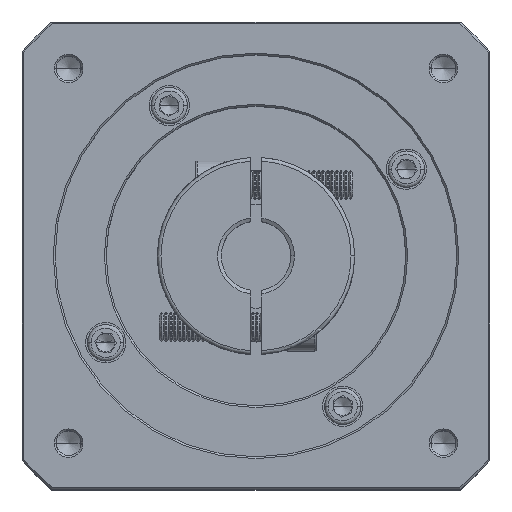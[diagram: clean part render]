
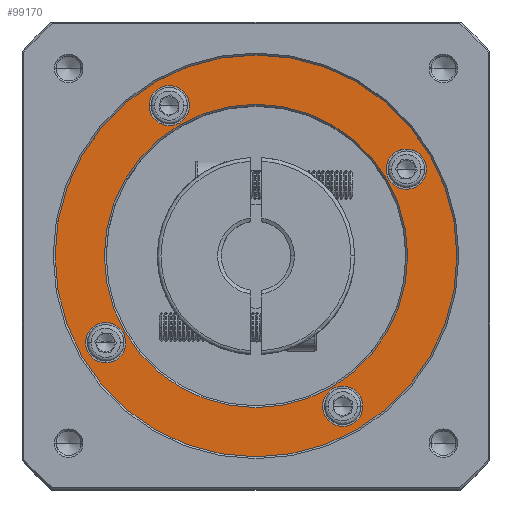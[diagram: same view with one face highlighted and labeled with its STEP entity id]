
A CAD part, top view. The second image highlights one B-rep face of the part: STEP entity #99170.
In plain terms, the highlighted planar face has unit normal (0, 0, 1).
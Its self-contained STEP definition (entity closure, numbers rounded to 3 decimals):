
#219 = ORIENTED_EDGE ( 'NONE', *, *, #86435, .T. ) ;
#425 = AXIS2_PLACEMENT_3D ( 'NONE', #82141, #25679, #91592 ) ;
#1742 = AXIS2_PLACEMENT_3D ( 'NONE', #78755, #22317, #88177 ) ;
#1783 = VERTEX_POINT ( 'NONE', #89459 ) ;
#3862 = CARTESIAN_POINT ( 'NONE',  ( 62.677, 143.748, 75.911 ) ) ;
#5498 = VERTEX_POINT ( 'NONE', #73115 ) ;
#5919 = DIRECTION ( 'NONE',  ( 0., 0., -1. ) ) ;
#6913 = CIRCLE ( 'NONE', #40359, 5.5 ) ;
#8899 = AXIS2_PLACEMENT_3D ( 'NONE', #51380, #117247, #60851 ) ;
#9395 = ORIENTED_EDGE ( 'NONE', *, *, #28859, .T. ) ;
#9466 = VERTEX_POINT ( 'NONE', #78642 ) ;
#11820 = DIRECTION ( 'NONE',  ( 0., 0., -1. ) ) ;
#11911 = CARTESIAN_POINT ( 'NONE',  ( 16.041, 119.998, 75.911 ) ) ;
#13334 = DIRECTION ( 'NONE',  ( 1., 0., 0. ) ) ;
#13977 = AXIS2_PLACEMENT_3D ( 'NONE', #62323, #5919, #71818 ) ;
#15432 = CARTESIAN_POINT ( 'NONE',  ( 21.541, 119.998, 75.911 ) ) ;
#16007 = AXIS2_PLACEMENT_3D ( 'NONE', #22597, #88459, #32062 ) ;
#19979 = FACE_BOUND ( 'NONE', #27703, .T. ) ;
#20912 = ORIENTED_EDGE ( 'NONE', *, *, #24653, .T. ) ;
#21345 = CARTESIAN_POINT ( 'NONE',  ( 62.677, 143.748, 75.911 ) ) ;
#21350 = CARTESIAN_POINT ( 'NONE',  ( 103.813, 167.498, 75.911 ) ) ;
#22317 = DIRECTION ( 'NONE',  ( 0., 0., -1. ) ) ;
#22597 = CARTESIAN_POINT ( 'NONE',  ( 62.677, 143.748, 75.911 ) ) ;
#24618 = CIRCLE ( 'NONE', #67406, 55. ) ;
#24653 = EDGE_CURVE ( 'NONE', #61809, #9466, #78404, .T. ) ;
#24857 = DIRECTION ( 'NONE',  ( 1., 0., 0. ) ) ;
#25073 = CIRCLE ( 'NONE', #70990, 5.5 ) ;
#25679 = DIRECTION ( 'NONE',  ( 0., 0., -1. ) ) ;
#26011 = ORIENTED_EDGE ( 'NONE', *, *, #81349, .T. ) ;
#27681 = DIRECTION ( 'NONE',  ( 0., 0., 1. ) ) ;
#27703 = EDGE_LOOP ( 'NONE', ( #34898, #116641 ) ) ;
#28602 = ORIENTED_EDGE ( 'NONE', *, *, #99868, .T. ) ;
#28859 = EDGE_CURVE ( 'NONE', #72485, #114377, #6913, .T. ) ;
#30646 = ORIENTED_EDGE ( 'NONE', *, *, #119630, .T. ) ;
#30765 = DIRECTION ( 'NONE',  ( 1., 0., 0. ) ) ;
#30774 = DIRECTION ( 'NONE',  ( 1., 0., 0. ) ) ;
#31224 = CARTESIAN_POINT ( 'NONE',  ( 86.427, 102.612, 75.911 ) ) ;
#31264 = CIRCLE ( 'NONE', #111550, 5.5 ) ;
#31381 = CIRCLE ( 'NONE', #119096, 5.5 ) ;
#32062 = DIRECTION ( 'NONE',  ( 0., -1., 0. ) ) ;
#34898 = ORIENTED_EDGE ( 'NONE', *, *, #90141, .T. ) ;
#36095 = CIRCLE ( 'NONE', #8899, 5.5 ) ;
#38768 = CIRCLE ( 'NONE', #16007, 41.5 ) ;
#39185 = EDGE_LOOP ( 'NONE', ( #20912, #26011 ) ) ;
#40359 = AXIS2_PLACEMENT_3D ( 'NONE', #15432, #81341, #24857 ) ;
#40668 = DIRECTION ( 'NONE',  ( 1., 0., 0. ) ) ;
#45039 = FACE_BOUND ( 'NONE', #57267, .T. ) ;
#48165 = ORIENTED_EDGE ( 'NONE', *, *, #57248, .T. ) ;
#49039 = EDGE_CURVE ( 'NONE', #111575, #5498, #102746, .T. ) ;
#50121 = CARTESIAN_POINT ( 'NONE',  ( 80.927, 102.612, 75.911 ) ) ;
#51380 = CARTESIAN_POINT ( 'NONE',  ( 86.427, 102.612, 75.911 ) ) ;
#52835 = DIRECTION ( 'NONE',  ( 0., 0., -1. ) ) ;
#55690 = EDGE_CURVE ( 'NONE', #81446, #1783, #31264, .T. ) ;
#57248 = EDGE_CURVE ( 'NONE', #91725, #74681, #94058, .T. ) ;
#57267 = EDGE_LOOP ( 'NONE', ( #30646, #67314 ) ) ;
#58196 = CIRCLE ( 'NONE', #425, 5.5 ) ;
#60447 = CARTESIAN_POINT ( 'NONE',  ( 44.427, 184.884, 75.911 ) ) ;
#60851 = DIRECTION ( 'NONE',  ( 1., 0., 0. ) ) ;
#61315 = AXIS2_PLACEMENT_3D ( 'NONE', #3862, #69785, #13334 ) ;
#61809 = VERTEX_POINT ( 'NONE', #70768 ) ;
#62323 = CARTESIAN_POINT ( 'NONE',  ( 103.813, 167.498, 75.911 ) ) ;
#67314 = ORIENTED_EDGE ( 'NONE', *, *, #77206, .T. ) ;
#67406 = AXIS2_PLACEMENT_3D ( 'NONE', #21345, #87170, #30765 ) ;
#68248 = CARTESIAN_POINT ( 'NONE',  ( 21.541, 119.998, 75.911 ) ) ;
#69785 = DIRECTION ( 'NONE',  ( 0., 0., 1. ) ) ;
#70768 = CARTESIAN_POINT ( 'NONE',  ( 117.677, 143.748, 75.911 ) ) ;
#70870 = AXIS2_PLACEMENT_3D ( 'NONE', #109156, #52835, #118688 ) ;
#70990 = AXIS2_PLACEMENT_3D ( 'NONE', #21350, #87173, #30774 ) ;
#71741 = ORIENTED_EDGE ( 'NONE', *, *, #103386, .T. ) ;
#71818 = DIRECTION ( 'NONE',  ( 1., 0., 0. ) ) ;
#72485 = VERTEX_POINT ( 'NONE', #11911 ) ;
#73115 = CARTESIAN_POINT ( 'NONE',  ( 62.677, 185.248, 75.911 ) ) ;
#74545 = AXIS2_PLACEMENT_3D ( 'NONE', #84158, #27681, #93622 ) ;
#74681 = VERTEX_POINT ( 'NONE', #96677 ) ;
#77206 = EDGE_CURVE ( 'NONE', #114754, #120820, #94034, .T. ) ;
#77725 = DIRECTION ( 'NONE',  ( 1., 0., 0. ) ) ;
#77825 = CARTESIAN_POINT ( 'NONE',  ( 27.041, 119.998, 75.911 ) ) ;
#78404 = CIRCLE ( 'NONE', #74545, 55. ) ;
#78642 = CARTESIAN_POINT ( 'NONE',  ( 7.677, 143.748, 75.911 ) ) ;
#78755 = CARTESIAN_POINT ( 'NONE',  ( 62.677, 143.748, 75.911 ) ) ;
#80695 = EDGE_LOOP ( 'NONE', ( #109456, #219 ) ) ;
#81341 = DIRECTION ( 'NONE',  ( 0., 0., -1. ) ) ;
#81349 = EDGE_CURVE ( 'NONE', #9466, #61809, #24618, .T. ) ;
#81446 = VERTEX_POINT ( 'NONE', #50121 ) ;
#81566 = CARTESIAN_POINT ( 'NONE',  ( 109.313, 167.498, 75.911 ) ) ;
#82141 = CARTESIAN_POINT ( 'NONE',  ( 38.927, 184.884, 75.911 ) ) ;
#84158 = CARTESIAN_POINT ( 'NONE',  ( 62.677, 143.748, 75.911 ) ) ;
#85573 = CARTESIAN_POINT ( 'NONE',  ( 62.677, 102.248, 75.911 ) ) ;
#86435 = EDGE_CURVE ( 'NONE', #5498, #111575, #38768, .T. ) ;
#87170 = DIRECTION ( 'NONE',  ( 0., 0., 1. ) ) ;
#87173 = DIRECTION ( 'NONE',  ( 0., 0., -1. ) ) ;
#88177 = DIRECTION ( 'NONE',  ( 0., -1., 0. ) ) ;
#88276 = PLANE ( 'NONE',  #61315 ) ;
#88459 = DIRECTION ( 'NONE',  ( 0., 0., -1. ) ) ;
#89459 = CARTESIAN_POINT ( 'NONE',  ( 91.927, 102.612, 75.911 ) ) ;
#90141 = EDGE_CURVE ( 'NONE', #1783, #81446, #36095, .T. ) ;
#91592 = DIRECTION ( 'NONE',  ( 1., 0., 0. ) ) ;
#91725 = VERTEX_POINT ( 'NONE', #60447 ) ;
#92125 = FACE_BOUND ( 'NONE', #114559, .T. ) ;
#93622 = DIRECTION ( 'NONE',  ( 1., 0., 0. ) ) ;
#93771 = CARTESIAN_POINT ( 'NONE',  ( 98.313, 167.498, 75.911 ) ) ;
#94034 = CIRCLE ( 'NONE', #13977, 5.5 ) ;
#94058 = CIRCLE ( 'NONE', #70870, 5.5 ) ;
#95052 = FACE_BOUND ( 'NONE', #80695, .T. ) ;
#96677 = CARTESIAN_POINT ( 'NONE',  ( 33.427, 184.884, 75.911 ) ) ;
#97087 = DIRECTION ( 'NONE',  ( 0., 0., -1. ) ) ;
#97974 = FACE_OUTER_BOUND ( 'NONE', #39185, .T. ) ;
#99170 = ADVANCED_FACE ( 'NONE', ( #97974, #95052, #45039, #19979, #117149, #92125 ), #88276, .T. ) ;
#99868 = EDGE_CURVE ( 'NONE', #114377, #72485, #31381, .T. ) ;
#102746 = CIRCLE ( 'NONE', #1742, 41.5 ) ;
#103386 = EDGE_CURVE ( 'NONE', #74681, #91725, #58196, .T. ) ;
#109156 = CARTESIAN_POINT ( 'NONE',  ( 38.927, 184.884, 75.911 ) ) ;
#109456 = ORIENTED_EDGE ( 'NONE', *, *, #49039, .T. ) ;
#111550 = AXIS2_PLACEMENT_3D ( 'NONE', #31224, #97087, #40668 ) ;
#111575 = VERTEX_POINT ( 'NONE', #85573 ) ;
#114377 = VERTEX_POINT ( 'NONE', #77825 ) ;
#114559 = EDGE_LOOP ( 'NONE', ( #28602, #9395 ) ) ;
#114754 = VERTEX_POINT ( 'NONE', #93771 ) ;
#116641 = ORIENTED_EDGE ( 'NONE', *, *, #55690, .T. ) ;
#117149 = FACE_BOUND ( 'NONE', #119091, .T. ) ;
#117247 = DIRECTION ( 'NONE',  ( 0., 0., -1. ) ) ;
#118688 = DIRECTION ( 'NONE',  ( 1., 0., 0. ) ) ;
#119091 = EDGE_LOOP ( 'NONE', ( #48165, #71741 ) ) ;
#119096 = AXIS2_PLACEMENT_3D ( 'NONE', #68248, #11820, #77725 ) ;
#119630 = EDGE_CURVE ( 'NONE', #120820, #114754, #25073, .T. ) ;
#120820 = VERTEX_POINT ( 'NONE', #81566 ) ;
